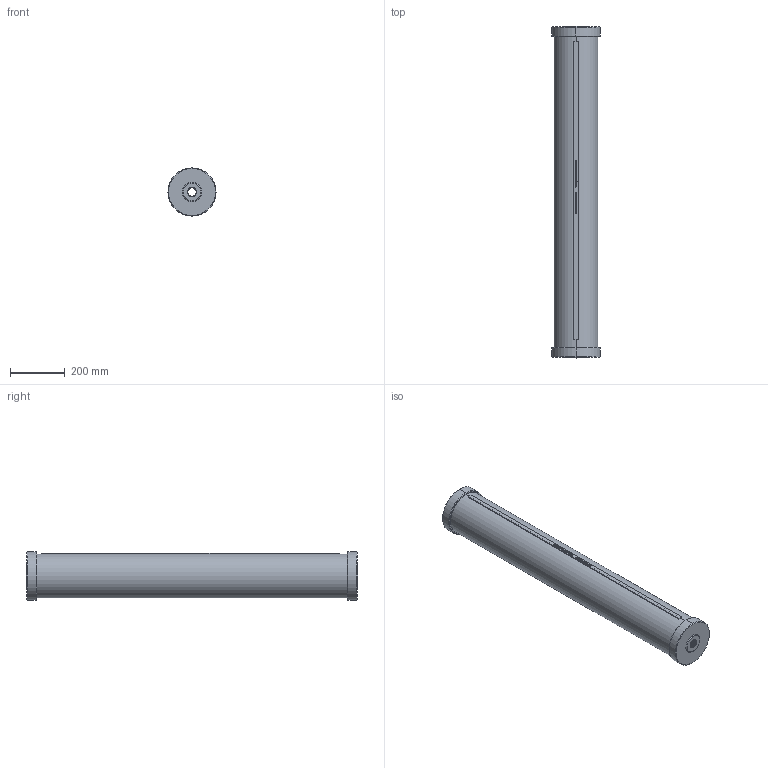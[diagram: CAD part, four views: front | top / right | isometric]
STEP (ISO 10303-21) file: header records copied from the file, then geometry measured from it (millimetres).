
FILE_DESCRIPTION (( 'STEP AP214' ), '1' );
FILE_NAME ('20LTR-C-11-00.STEP', '2025-06-23T15:12:38', ( '' ), ( '' ), 'SwSTEP 2.0', 'SolidWorks 2024', '' );
FILE_SCHEMA (( 'AUTOMOTIVE_DESIGN' ));
Length unit declared in the file: millimetre
Products named in the file (1): 20LTR-C-11-00
Bounding box: 175 x 1207.63 x 175 mm (x, y, z)
Volume: 2894839.1 mm3; surface area: 1358064.5 mm2
Topology: 4 solids, 4 shells, 595 faces, 1562 edges, 1036 vertices
Faces by surface type: plane 306, bspline 229, cylinder 40, cone 16, torus 4
Entity records: 38653 total; most frequent: CARTESIAN_POINT 19059, ORIENTED_EDGE 3124, DIRECTION 1838, EDGE_CURVE 1562, VERTEX_POINT 1036, VECTOR 984, LINE 984, EDGE_LOOP 662
